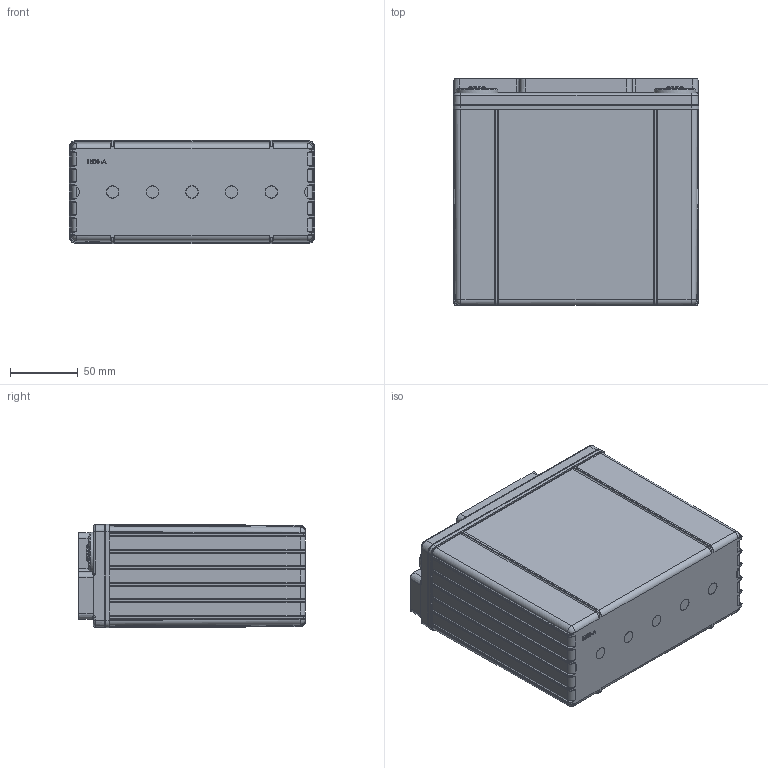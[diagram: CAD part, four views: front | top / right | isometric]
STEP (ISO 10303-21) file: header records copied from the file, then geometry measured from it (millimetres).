
FILE_DESCRIPTION (( 'STEP AP203' ), '1' );
FILE_NAME ('ODS-AGM16L.STEP', '2024-03-25T15:27:34', ( '' ), ( '' ), 'SwSTEP 2.0', 'SolidWorks 2022', '' );
FILE_SCHEMA (( 'CONFIG_CONTROL_DESIGN' ));
Products named in the file (1): ODS-AGM16L
Bounding box: 180.85 x 166.95 x 75.95 mm (x, y, z)
Volume: 414522 mm3; surface area: 371997.4 mm2
Topology: 9 solids, 9 shells, 3062 faces, 7516 edges, 4371 vertices
Faces by surface type: cylinder 1062, plane 892, bspline 852, torus 128, cone 78, sphere 50
Full cylindrical faces by diameter (mm): 1.575 x6, 3.81 x1, 6.35 x2, 7.62 x7, 7.925 x5, 8.89 x5, 9.144 x5, 9.525 x2, 10.668 x2, 12.7 x6, 13.208 x4, 17.78 x2, 20.015 x1, 25.273 x2
Entity records: 104873 total; most frequent: CARTESIAN_POINT 43352, ORIENTED_EDGE 14192, DIRECTION 11023, EDGE_CURVE 7096, VERTEX_POINT 4297, AXIS2_PLACEMENT_3D 3990, EDGE_LOOP 3339, FACE_OUTER_BOUND 3159
